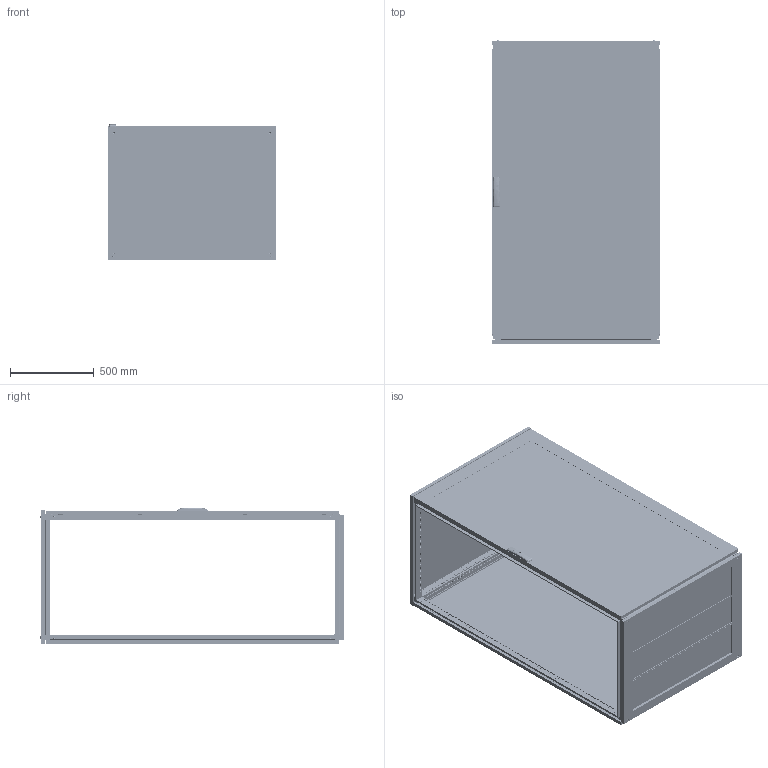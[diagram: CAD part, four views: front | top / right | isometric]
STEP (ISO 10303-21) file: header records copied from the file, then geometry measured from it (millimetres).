
FILE_DESCRIPTION (( 'STEP AP203' ), '1' );
FILE_NAME ('R5CQEN18108AX.STEP', '2025-05-07T11:55:14', ( '' ), ( '' ), 'SwSTEP 2.0', 'SolidWorks 2022', '' );
FILE_SCHEMA (( 'CONFIG_CONTROL_DESIGN' ));
Length unit declared in the file: millimetre
Products named in the file (65): RB.2968.00.00.0 simple; M6 MGR-MKO-0625 simple_Thread; Square cap 20x20 simple; RB.0528.00.01.0 simple_-04; RB.0528.04.00.0 СБ simple; RB.2499.00.00.0 СБ simple_-27; PF 7,5x15 CPE simple_1800x1000; R5NKMN - Assem simple_R5NKMN18 (1000х800); M6x10 DIN 7500 E HX cl.5.8 Zinc_straight; RB.1867.01.00.0 СБ simple_-61; RB.2680.00.01.0 simple; M6x10 DIN 912 HX cl.8,8 Zinc_straight; M6 DIN 985 cl.6,0 Zinc_straight; RB.2702.00.00.0 simple; RB.2052.01.00.0 СБ simple_-19; RB.0562.00.00.0 СБ simple_-14; RB.1633.00.01.0 simple_-04; AC00C446-R; Pressing stud FH-M6-12_M6x12mm; R5NCPTE - Assem simple_R5NCPTE18100; Glue CPTE simple_1800x1000; RB.0528.04.01.0 simple; RB.2969.00.00.0 СБ simple; 4,0x16 F Torx Zinc (ART 88200)_thread; TPA.08.0084.00.00.0 simple; R5NKTB - Assem simple_H=1800 R5NKTB108; RB.2969.00.01.0 simple; RB.2456.00.00.0 simple_-03; R5CQEN18108AX; M6x10 DIN 7500 M Torx cl.5.8 Zinc_straight; RB.2686.00.00.0 simple; RB.1633.00.02.0 simple_-03; RB.1867.01.01.0 simple_-18; 7 DIN 6799 Zinc simple; TPA.08.0083.00.00.0 simple; RB.1957.00.00.0 simple_-16; RB.2357.00.00.0 simple_-07; R5NCRE-Assem simple_R5NCRE18100; 7 DIN 6799 Zinc; Glass CPTE_1800x1000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
Assembly tree (176 placements, depth 5):
  R5CQEN18108AX
    R5NCPTE - Assem simple_R5NCPTE18100
      RB.0562.00.00.0 СБ simple_-14
        RB.0562.01.00.0 СБ simple_-14
          RB.0562.01.01.0 simple_-14
          М6х12 A5100231_straight  x9
          RB.2702.00.00.0 simple  x4
          PF 7,5x15 CPE simple_1800x1000
          Glass CPTE_1800x1000
          Glue CPTE simple_1800x1000
        Square cap 20x20 simple  x2
        M6x15 Erickson cl.4,8 Zinc  x3
        RB.0528.00.01.0 simple_-04  x2
        ATOS Traction guide ILY03.35  x4
        RB.2357.00.00.0 simple_-07
        RB.2680.00.00.0 СБ simple
          TPA.08.0139.00.01.0 simple
          RB.2680.00.01.0 simple
          RB.2680.00.02.0 simple  x2
        TPA.08.0139.00.03.0  x2
        M6 DIN 985 cl.6,0 Zinc_straight  x4
        4,0x16 F Torx Zinc (ART 88200)_thread  x2
        RB.0528.04.00.0 СБ simple  x2
          RB.0528.04.01.0 simple
          Pressing stud FH-M6-12_M6x12mm
      M6x10 DIN 912 HX cl.8,8 Zinc_straight  x8
      4.8x13 DIN 7981 PH Zinc_straight
      7 DIN 6799 Zinc simple  x4
      RB.2968.00.00.0 simple  x4
      RB.2969.00.00.0 СБ simple  x4
        RB.2969.00.01.0 simple
        Pin 4x16 DIN 7 AISI 303 (A1) simple
        M6 MGR-MKO-0625 simple_Thread
      AC00C446-R
      RB.2696.00.00.0 simple  x4
      7 DIN 6799 Zinc  x4
    R5NCRE-Assem simple_R5NCRE18100
      RB.2052.00.00.0 СБ simple_-19
        RB.2052.01.00.0 СБ simple_-19
          RB.0054.01.01.0 simple_-19
          М6х12 A5100231_straight  x4
        PF 7x14 CRE simple_1800x1000
      RB.2172.00.00.1 simple  x8
      M6x10 DIN 7500 E HX cl.5.8 Zinc_straight  x8
      M6x10 DIN 7500 M Torx cl.5.8 Zinc_straight  x8
    R5NKMN - Assem simple_R5NKMN18 (1000х800)
      RB.2528.00.00.0 simple_-04  x4
    R5NKTB - Assem simple_H=1800 R5NKTB108
      RB.2499.00.00.0 СБ simple_-27
        RB.2499.01.00.0 СБ simple_-26
          RB.1633.00.01.0 simple_-04  x2
          RB.1633.00.02.0 simple_-03  x2
          PF 5x10 KTB simple_1000x800
        RB.2457.00.00.0 СБ simple_-27
          RB.2455.00.00.0 simple_-04  x2
          RB.2456.00.00.0 simple_-03  x2
          TPA.08.0084.00.00.0 simple  x2
          TPA.08.0083.00.00.0 simple  x2
          M8x12 AC00C476 cl.8,8 Zinc_stright  x4
        RB.1957.00.00.0 simple_-16  x3
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Bounding box: 1000 x 1813.3 x 814.74 mm (x, y, z)
Volume: 20832920.7 mm3; surface area: 18301480.3 mm2
Topology: 179 solids, 195 shells, 23901 faces, 68023 edges, 44836 vertices
Faces by surface type: plane 13123, cylinder 9227, cone 714, bspline 435, torus 368, sphere 34
Entity records: 237953 total; most frequent: CARTESIAN_POINT 57674, ORIENTED_EDGE 35802, DIRECTION 34369, EDGE_CURVE 17927, VERTEX_POINT 11874, AXIS2_PLACEMENT_3D 11592, LINE 11185, VECTOR 11185
